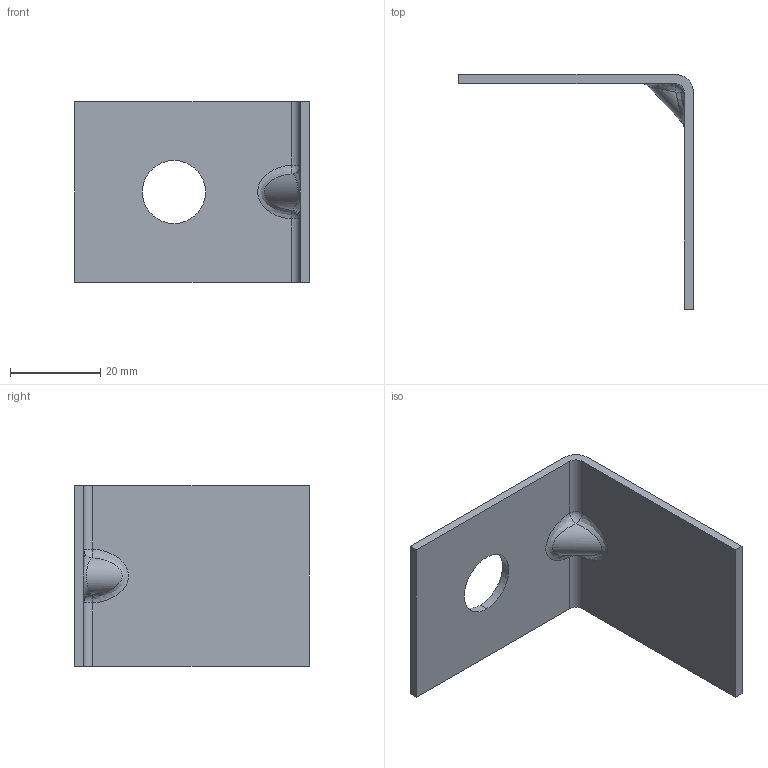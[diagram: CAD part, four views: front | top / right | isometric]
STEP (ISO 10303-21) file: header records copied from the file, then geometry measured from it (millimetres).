
FILE_DESCRIPTION((''),'2;1');
FILE_NAME('SMALLBRACKET2MMWITHBEAKV2','2014-11-23T',('mphilpott'),(''),'CREO PARAMETRIC BY PTC INC, 2014190','CREO PARAMETRIC BY PTC INC, 2014190','');
FILE_SCHEMA(('CONFIG_CONTROL_DESIGN'));
Length unit declared in the file: millimetre
Products named in the file (1): SMALLBRACKET2MMWITHBEAKV2
Bounding box: 52 x 52 x 40 mm (x, y, z)
Volume: 7756.2 mm3; surface area: 8407 mm2
Topology: 1 solids, 1 shells, 24 faces, 54 edges, 32 vertices
Faces by surface type: plane 8, cylinder 8, bspline 4, sphere 4
Entity records: 1202 total; most frequent: CARTESIAN_POINT 640, ORIENTED_EDGE 108, DIRECTION 106, EDGE_CURVE 54, AXIS2_PLACEMENT_3D 40, VERTEX_POINT 32, VECTOR 26, LINE 26
